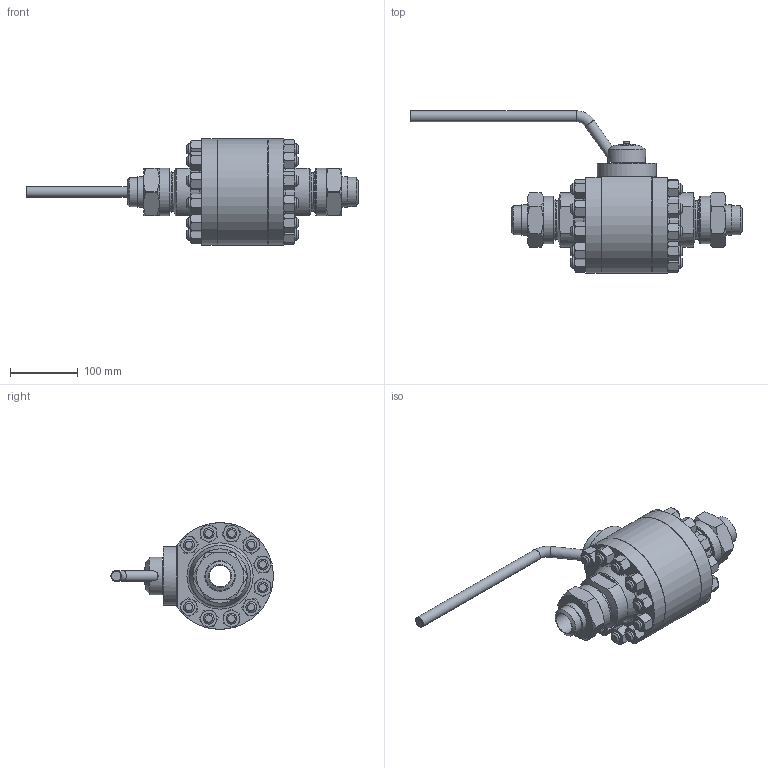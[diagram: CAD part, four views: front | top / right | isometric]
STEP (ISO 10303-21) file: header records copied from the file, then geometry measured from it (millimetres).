
FILE_DESCRIPTION(('STEP AP203'), '1');
FILE_NAME('ZARDP 032.200.30.P.stp', '2013-12-06T06:33:37', ('Øèøêî'), ('ÎÎÎ ÈÊ Ýíåðïðåä-ßðäîñ'), 'ASCON STEP Converter 1.3', 'Kompas 3D', '');
FILE_SCHEMA(('CONFIG_CONTROL_DESIGN','SUPPORT_RESOURCE_SCHEMA'));
Length unit declared in the file: millimetre
Products named in the file (1): 86
Bounding box: 489.31 x 239.21 x 156.63 mm (x, y, z)
Volume: 2734850.4 mm3; surface area: 365468.4 mm2
Topology: 1 solids, 33 shells, 1059 faces, 2440 edges, 1567 vertices
Faces by surface type: plane 494, cone 346, cylinder 210, torus 7, bspline 2
Full cylindrical faces by diameter (mm): 4.134 x1, 5 x1, 5.3 x1, 8 x10, 8.376 x8, 8.5 x1, 10 x8, 11 x8, 13.835 x20, 16 x10, 16.01 x20, 17 x8, 18 x20, 19.124 x20, 20.5 x1, 24.8 x1, 25 x2, 32 x4, 34.8 x1, 35 x1, 35.5 x1, 43 x2, 45 x4, 50 x2, 56 x1, 57 x2, 57.835 x2, 60 x2, 70 x2, 80 x3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
Entity records: 45636 total; most frequent: CARTESIAN_POINT 22019, ORIENTED_EDGE 4864, DIRECTION 4792, EDGE_CURVE 2432, AXIS2_PLACEMENT_3D 1935, VERTEX_POINT 1567, EDGE_LOOP 1221, ADVANCED_FACE 1059
